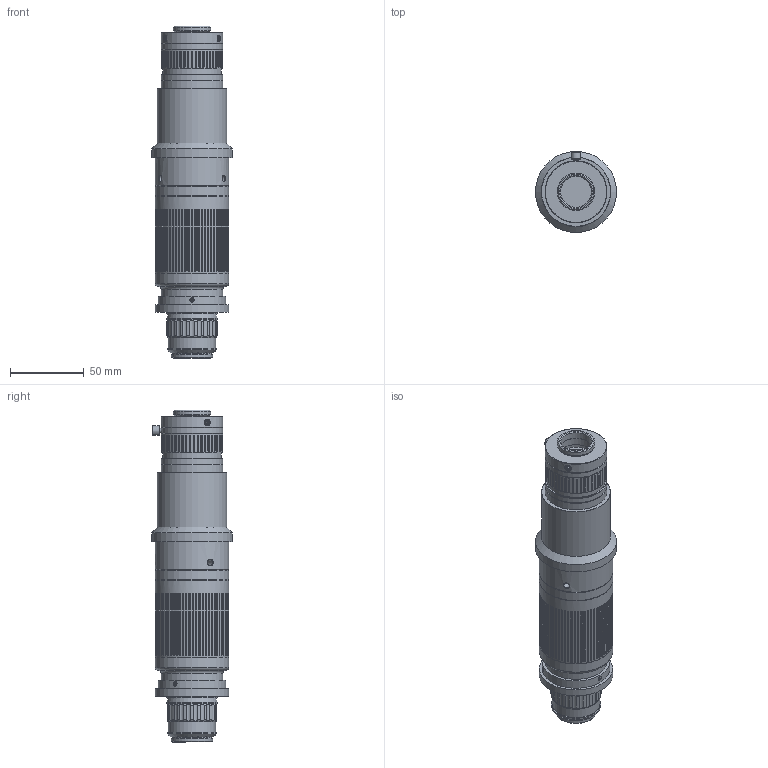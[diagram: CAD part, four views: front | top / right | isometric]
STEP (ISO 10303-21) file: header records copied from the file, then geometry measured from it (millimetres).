
FILE_DESCRIPTION(('STEP AP214'),'1');
FILE_NAME('SDS-KFZ.stp','2026-03-30T06:24:39',(' '),(' '),'Spatial InterOp 3D',' ',' ');
FILE_SCHEMA(('AUTOMOTIVE_DESIGN { 1 0 10303 214 1 1 1 1 }'));
Length unit declared in the file: metre
Products named in the file (2): SDS-KFZ; Component1
Assembly tree (1 placements, depth 2):
  SDS-KFZ
    Component1
Bounding box: 55 x 55 x 225.5 mm (x, y, z)
Volume: 332694.3 mm3; surface area: 46956.6 mm2
Topology: 1 solids, 10 shells, 1325 faces, 2965 edges, 1808 vertices
Faces by surface type: cylinder 569, sphere 477, plane 217, cone 54, bspline 6, torus 2
Full cylindrical faces by diameter (mm): 3 x4, 4 x12, 6.3 x1, 21 x2, 24 x1, 24.2 x1, 25 x3, 25.4 x1, 26 x2, 27 x1, 28 x1, 30 x1, 32.2 x1, 33.7 x1, 34 x2, 39.8 x1, 42 x6, 46 x1, 47 x1, 50 x5, 55 x1
Entity records: 49465 total; most frequent: CARTESIAN_POINT 10820, DIRECTION 5778, ORIENTED_EDGE 5636, EDGE_CURVE 2818, AXIS2_PLACEMENT_3D 2462, VERTEX_POINT 1768, EDGE_LOOP 1596, FACE_OUTER_BOUND 1382
